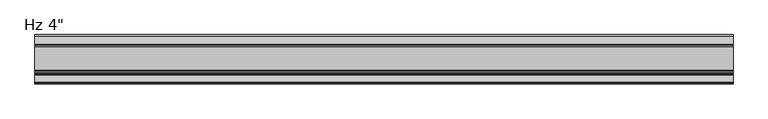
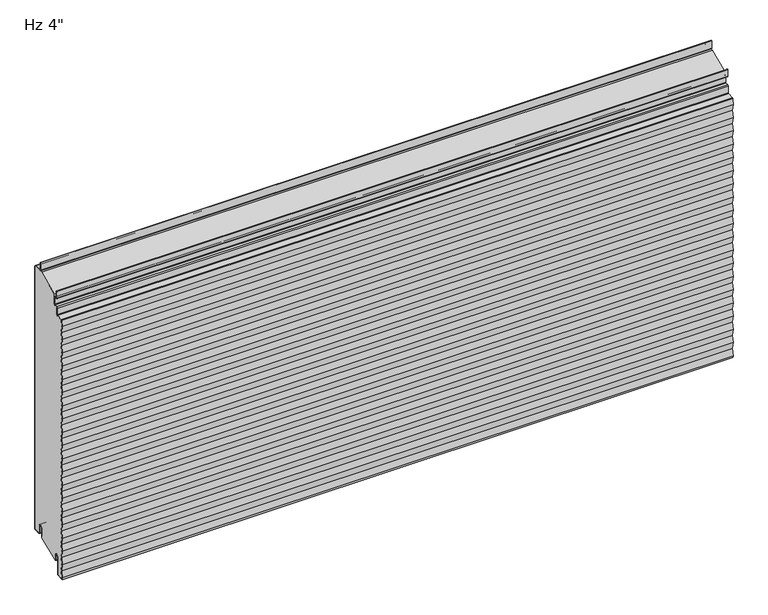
"""IFC4 building model written with IfcOpenShell, lengths in millimetres: plate geometry."""

from ifc_helpers import new_model, si_unit, point, frame, frame_2d, origin, place, context, project, spatial, polyline, circle_curve, ellipse_curve, trimmed, segment, composite_curve, outline, extrude, source, transform, mapped, element, save
from ifc_brep_helpers import plane_surface, cylinder_surface, revolved_surface, extruded_surface, advanced_brep


def plate_96c78911(model_context):
    return source(origin(), model_context, "Body", "SolidModel", [
        extrude(outline(composite_curve([segment(trimmed(circle_curve(frame_2d((-21.43125, 19.05)), 4.96875), [point((-16.4625, 19.05))], [point((-26.4, 19.05))], True, "CARTESIAN"), True, "CONTINUOUS"), segment(polyline([(-26.4, 19.05), (-26.4, -3.1323422), (-74.6157227, -23.01875), (-76.2, -23.01875), (-76.2, -13.5080174), (-76.99375, -13.5080174), (-76.7875, -11.9205174)]), True, "CONTINUOUS"), segment(trimmed(circle_curve(frame_2d((-81.75625, -11.9205174)), 4.96875), [point((-76.7875, -11.9205174))], [point((-86.725, -11.9205174))], True, "CARTESIAN"), True, "CONTINUOUS"), segment(polyline([(-86.725, -11.9205174), (-86.725, -50.1038221)]), True, "CONTINUOUS"), segment(trimmed(circle_curve(frame_2d((-88.10625, -50.1038221)), 1.38125), [point((-86.725, -50.1038221))], [point((-88.033961, -51.4831791))], False, "CARTESIAN"), True, "CONTINUOUS"), segment(polyline([(-88.033961, -51.4831791), (-101.2062471, -52.1735094), (-101.7378194, -48.8511825), (-99.2994194, -33.6111825), (-101.7378194, -18.3711825), (-99.2994194, -3.1311825), (-101.7378194, 12.1088175), (-99.2994194, 27.3488175), (-101.7378194, 42.5888175), (-99.2994194, 57.8288175), (-101.7378194, 73.0688175), (-99.2994194, 88.3088175), (-101.7378194, 103.5488175), (-99.2994194, 118.7888175), (-101.7378194, 134.0288175), (-99.2994194, 149.2688175), (-101.7378194, 164.5088175), (-99.2994194, 179.7488175), (-101.7378194, 194.9888175), (-99.2994194, 210.2288175), (-101.7378194, 225.4688175), (-99.2994194, 240.7088175), (-101.7378194, 255.9488175), (-99.2994194, 271.1888175), (-101.7378194, 286.4288175), (-99.2994194, 301.6688175), (-101.7378194, 316.9088175), (-99.2994194, 332.1488175), (-101.7378194, 347.3888175), (-99.2994194, 362.6288175), (-101.7378194, 377.8688175), (-99.2994194, 393.1088175), (-101.7378194, 408.3488175), (-99.2994194, 423.5888175), (-101.7378194, 438.8288175), (-99.2994194, 454.0688175), (-101.7378194, 469.3088175), (-99.2994194, 484.5488175), (-101.7378194, 499.7888175), (-99.2994194, 515.0288175), (-101.7054086, 530.06625), (-99.6673048, 542.8043985), (-85.5895807, 543.5421807)]), True, "CONTINUOUS"), segment(trimmed(circle_curve(frame_2d((-85.725, 546.1261347)), 2.5875), [point((-85.5895807, 543.5421807))], [point((-83.1375, 546.1261347))], True, "CARTESIAN"), True, "CONTINUOUS"), segment(polyline([(-83.1375, 546.1261347), (-83.1375, 560.2824411)]), True, "CONTINUOUS"), segment(trimmed(circle_curve(frame_2d((-81.75625, 560.2824411)), 1.38125), [point((-83.1375, 560.2824411))], [point((-81.828539, 561.6617981))], False, "CARTESIAN"), True, "CONTINUOUS"), segment(polyline([(-81.828539, 561.6617981), (-76.0645807, 561.9638744)]), True, "CONTINUOUS"), segment(trimmed(circle_curve(frame_2d((-76.2, 564.5478283)), 2.5875), [point((-76.0645807, 561.9638744))], [point((-73.6125, 564.5478283))], True, "CARTESIAN"), True, "CONTINUOUS"), segment(polyline([(-73.6125, 564.5478283), (-73.6125, 586.9892934), (-24.9057308, 607.80625), (-2.38125, 607.80625)]), True, "CONTINUOUS"), segment(trimmed(circle_curve(frame_2d((-2.38125, 606.425)), 1.38125), [point((-2.38125, 607.80625))], [point((-1.0, 606.425))], False, "CARTESIAN"), True, "CONTINUOUS"), segment(polyline([(-1.0, 606.425), (-1.0, 3.175)]), True, "CONTINUOUS"), segment(trimmed(circle_curve(frame_2d((-2.38125, 3.175)), 1.38125), [point((-1.0, 3.175))], [point((-2.38125, 1.79375))], False, "CARTESIAN"), True, "CONTINUOUS"), segment(polyline([(-2.38125, 1.79375), (-15.08125, 1.79375)]), True, "CONTINUOUS"), segment(trimmed(circle_curve(frame_2d((-15.08125, 3.175)), 1.38125), [point((-15.08125, 1.79375))], [point((-16.4625, 3.175))], False, "CARTESIAN"), True, "CONTINUOUS"), segment(polyline([(-16.4625, 3.175), (-16.4625, 19.05)]), True, "CONTINUOUS")], self_intersect=False)), frame((-730.0, 0.0, 0.0), z_axis=(1.0, 0.0, 0.0), x_axis=(0.0, 1.0, 0.0)), (0.0, 0.0, 1.0), 1460.0),
        extrude(outline(composite_curve([segment(polyline([(-25.4, 0.79375), (-26.4, 0.79375), (-26.4, 19.05)]), True, "CONTINUOUS"), segment(trimmed(circle_curve(frame_2d((-21.43125, 19.05)), 4.96875), [point((-26.4, 19.05))], [point((-16.4625, 19.05))], False, "CARTESIAN"), True, "CONTINUOUS"), segment(polyline([(-16.4625, 19.05), (-16.4625, 3.175)]), True, "CONTINUOUS"), segment(trimmed(circle_curve(frame_2d((-15.08125, 3.175)), 1.38125), [point((-16.4625, 3.175))], [point((-15.08125, 1.79375))], True, "CARTESIAN"), True, "CONTINUOUS"), segment(polyline([(-15.08125, 1.79375), (-2.38125, 1.79375)]), True, "CONTINUOUS"), segment(trimmed(circle_curve(frame_2d((-2.38125, 3.175)), 1.38125), [point((-2.38125, 1.79375))], [point((-1.0, 3.175))], True, "CARTESIAN"), True, "CONTINUOUS"), segment(polyline([(-1.0, 3.175), (-1.0, 606.425)]), True, "CONTINUOUS"), segment(trimmed(circle_curve(frame_2d((-2.38125, 606.425)), 1.38125), [point((-1.0, 606.425))], [point((-2.38125, 607.80625))], True, "CARTESIAN"), True, "CONTINUOUS"), segment(polyline([(-2.38125, 607.80625), (-19.446875, 607.80625)]), True, "CONTINUOUS"), segment(trimmed(circle_curve(frame_2d((-19.446875, 610.39375)), 2.5875), [point((-19.446875, 607.80625))], [point((-22.034375, 610.39375))], False, "CARTESIAN"), True, "CONTINUOUS"), segment(polyline([(-22.034375, 610.39375), (-22.034375, 627.85625), (-21.034375, 627.85625), (-21.034375, 610.39375)]), True, "CONTINUOUS"), segment(trimmed(circle_curve(frame_2d((-19.446875, 610.39375)), 1.5875), [point((-21.034375, 610.39375))], [point((-19.446875, 608.80625))], True, "CARTESIAN"), True, "CONTINUOUS"), segment(polyline([(-19.446875, 608.80625), (-2.38125, 608.80625)]), True, "CONTINUOUS"), segment(trimmed(circle_curve(frame_2d((-2.38125, 606.425)), 2.38125), [point((-2.38125, 608.80625))], [point((0.0, 606.425))], False, "CARTESIAN"), True, "CONTINUOUS"), segment(polyline([(0.0, 606.425), (0.0, 3.175)]), True, "CONTINUOUS"), segment(trimmed(circle_curve(frame_2d((-2.38125, 3.175)), 2.38125), [point((0.0, 3.175))], [point((-2.38125, 0.79375))], False, "CARTESIAN"), True, "CONTINUOUS"), segment(polyline([(-2.38125, 0.79375), (-15.08125, 0.79375)]), True, "CONTINUOUS"), segment(trimmed(circle_curve(frame_2d((-15.08125, 3.175)), 2.38125), [point((-15.08125, 0.79375))], [point((-17.4625, 3.175))], False, "CARTESIAN"), True, "CONTINUOUS"), segment(polyline([(-17.4625, 3.175), (-17.4625, 19.05)]), True, "CONTINUOUS"), segment(trimmed(circle_curve(frame_2d((-21.43125, 19.05)), 3.96875), [point((-17.4625, 19.05))], [point((-25.4, 19.05))], True, "CARTESIAN"), True, "CONTINUOUS"), segment(polyline([(-25.4, 19.05), (-25.4, 0.79375)]), True, "CONTINUOUS")], self_intersect=False)), frame((-730.0, 0.0, 0.0), z_axis=(1.0, 0.0, 0.0), x_axis=(0.0, 1.0, 0.0)), (0.0, 0.0, 1.0), 1460.0),
        advanced_brep(
        [(-730.0, -99.3998204, 271.1690814), (730.0, -99.3998204, 271.1690814), (730.0, -101.8382204, 255.9290814), (-730.0, -101.8382204, 255.9290814), (-730.0, -99.343375, 543.8227473), (730.0, -99.343375, 543.8227473), (730.0, -85.6419167, 544.5408103), (-730.0, -85.6419167, 544.5408103), (-730.0, -100.4125395, 515.0090814), (730.0, -100.4125395, 515.0090814), (730.0, -102.8185287, 530.0465139), (-730.0, -102.8185287, 530.0465139), (-730.0, -99.3998204, 515.0090814), (730.0, -99.3998204, 515.0090814), (730.0, -101.8382204, 499.7690814), (-730.0, -101.8382204, 499.7690814), (730.0, -99.3998204, 484.5290814), (-730.0, -99.3998204, 484.5290814), (730.0, -101.8382204, 469.2890814), (-730.0, -101.8382204, 469.2890814), (730.0, -99.3998204, 454.0490814), (-730.0, -99.3998204, 454.0490814), (730.0, -101.8382204, 438.8090814), (-730.0, -101.8382204, 438.8090814), (730.0, -99.3998204, 423.5690814), (-730.0, -99.3998204, 423.5690814), (730.0, -101.8382204, 408.3290814), (-730.0, -101.8382204, 408.3290814), (730.0, -99.3998204, 393.0890814), (-730.0, -99.3998204, 393.0890814), (730.0, -101.8382204, 377.8490814), (-730.0, -101.8382204, 377.8490814), (730.0, -99.3998204, 362.6090814), (-730.0, -99.3998204, 362.6090814), (730.0, -101.8382204, 347.3690814), (-730.0, -101.8382204, 347.3690814), (730.0, -99.3998204, 332.1290814), (-730.0, -99.3998204, 332.1290814), (730.0, -101.8382204, 316.8890814), (-730.0, -101.8382204, 316.8890814), (-730.0, -102.8509395, 438.8090814), (730.0, -102.8509395, 438.8090814), (730.0, -100.4125395, 454.0490814), (-730.0, -100.4125395, 454.0490814), (730.0, -102.8509395, 469.2890814), (-730.0, -102.8509395, 469.2890814), (730.0, -100.4125395, 484.5290814), (-730.0, -100.4125395, 484.5290814), (730.0, -102.8509395, 499.7690814), (-730.0, -102.8509395, 499.7690814), (-730.0, -99.291039, 542.8241177), (730.0, -99.291039, 542.8241177), (730.0, -99.840413, 542.3302423), (-730.0, -99.840413, 542.3302423), (730.0, -101.8058096, 530.0465139), (-730.0, -101.8058096, 530.0465139), (-730.0, -100.4125395, 362.6090814), (730.0, -100.4125395, 362.6090814), (730.0, -102.8509395, 377.8490814), (-730.0, -102.8509395, 377.8490814), (-730.0, -102.8509395, 408.3290814), (730.0, -102.8509395, 408.3290814), (730.0, -100.4125395, 423.5690814), (-730.0, -100.4125395, 423.5690814), (-730.0, -100.4125395, 301.6490814), (730.0, -100.4125395, 301.6490814), (730.0, -102.8509395, 316.8890814), (-730.0, -102.8509395, 316.8890814), (-730.0, -102.8509395, 347.3690814), (730.0, -102.8509395, 347.3690814), (-730.0, -100.4125395, 240.6890814), (730.0, -100.4125395, 240.6890814), (730.0, -102.8509395, 255.9290814), (-730.0, -102.8509395, 255.9290814), (-730.0, -102.8509395, 286.4090814), (730.0, -102.8509395, 286.4090814), (-730.0, -100.4125395, 179.7290814), (730.0, -100.4125395, 179.7290814), (730.0, -102.8509395, 194.9690814), (-730.0, -102.8509395, 194.9690814), (-730.0, -102.8509395, 225.4490814), (730.0, -102.8509395, 225.4490814), (-730.0, -100.4125395, 118.7690814), (730.0, -100.4125395, 118.7690814), (730.0, -102.8509395, 134.0090814), (-730.0, -102.8509395, 134.0090814), (-730.0, -102.8509395, 164.4890814), (730.0, -102.8509395, 164.4890814), (-730.0, -100.4125395, 57.8090814), (730.0, -100.4125395, 57.8090814), (730.0, -102.8509395, 73.0490814), (-730.0, -102.8509395, 73.0490814), (-730.0, -102.8509395, 103.5290814), (730.0, -102.8509395, 103.5290814), (-730.0, -100.4125395, -3.1509186), (730.0, -100.4125395, -3.1509186), (730.0, -102.8509395, 12.0890814), (-730.0, -102.8509395, 12.0890814), (-730.0, -102.8509395, 42.5690814), (730.0, -102.8509395, 42.5690814), (-730.0, -76.2, -23.2314549), (-730.0, -77.7875, -23.2314549), (-730.0, -77.7875, -11.9205174), (-730.0, -85.725, -11.9205174), (-730.0, -85.725, -50.1038221), (-730.0, -87.981625, -52.4818086), (-730.0, -102.1543553, -53.22457), (-730.0, -102.8509395, -48.8709186), (-730.0, -100.4125395, -33.6309186), (-730.0, -102.8509395, -18.3909186), (-730.0, -100.4125395, 27.3290814), (-730.0, -100.4125395, 88.2890814), (-730.0, -100.4125395, 149.2490814), (-730.0, -100.4125395, 210.2090814), (-730.0, -100.4125395, 271.1690814), (-730.0, -100.4125395, 332.1290814), (-730.0, -100.4125395, 393.0890814), (-730.0, -100.8278537, 542.4882328), (-730.0, -84.1375, 546.1261347), (-730.0, -84.1375, 560.2824411), (-730.0, -81.880875, 562.6604276), (-730.0, -76.1169167, 562.9625039), (-730.0, -74.6125, 564.5478283), (-730.0, -74.6125, 579.4232326), (-730.0, -76.2, 581.0107326), (-730.0, -80.3671875, 581.0107326), (-730.0, -82.7484375, 583.3919826), (-730.0, -82.7484375, 597.8836032), (-730.0, -80.9546875, 597.8836032), (-730.0, -80.9546875, 588.1544826), (-730.0, -81.7484375, 588.1544826), (-730.0, -81.7484375, 583.3919826), (-730.0, -80.3671875, 582.0107326), (-730.0, -76.2, 582.0107326), (-730.0, -73.6125, 579.4232326), (-730.0, -73.6125, 564.5478283), (-730.0, -76.0645807, 561.9638744), (-730.0, -81.828539, 561.6617981), (-730.0, -83.1375, 560.2824411), (-730.0, -83.1375, 546.1261347), (-730.0, -85.5895807, 543.5421807), (-730.0, -99.3998204, 301.6490814), (-730.0, -101.8382204, 286.4090814), (-730.0, -99.3998204, 240.6890814), (-730.0, -101.8382204, 225.4490814), (-730.0, -99.3998204, 210.2090814), (-730.0, -101.8382204, 194.9690814), (-730.0, -99.3998204, 179.7290814), (-730.0, -101.8382204, 164.4890814), (-730.0, -99.3998204, 149.2490814), (-730.0, -101.8382204, 134.0090814), (-730.0, -99.3998204, 118.7690814), (-730.0, -101.8382204, 103.5290814), (-730.0, -99.3998204, 88.2890814), (-730.0, -101.8382204, 73.0490814), (-730.0, -99.3998204, 57.8090814), (-730.0, -101.8382204, 42.5690814), (-730.0, -99.3998204, 27.3290814), (-730.0, -101.8382204, 12.0890814), (-730.0, -99.3998204, -3.1509186), (-730.0, -101.8382204, -18.3909186), (-730.0, -99.3998204, -33.6309186), (-730.0, -101.8382204, -48.8709186), (-730.0, -101.3089447, -52.1788915), (-730.0, -88.033961, -51.4831791), (-730.0, -86.725, -50.1038221), (-730.0, -86.725, -11.9205174), (-730.0, -76.7875, -11.9205174), (-730.0, -76.99375, -13.5080174), (-730.0, -76.2, -13.5080174), (730.0, -76.2, -23.2314549), (730.0, -76.2, -13.5080174), (730.0, -76.99375, -13.5080174), (730.0, -76.7875, -11.9205174), (730.0, -86.725, -11.9205174), (730.0, -86.725, -50.1038221), (730.0, -88.033961, -51.4831791), (730.0, -101.3089447, -52.1788915), (730.0, -101.8382204, -48.8709186), (730.0, -99.3998204, -33.6309186), (730.0, -101.8382204, -18.3909186), (730.0, -99.3998204, -3.1509186), (730.0, -101.8382204, 12.0890814), (730.0, -99.3998204, 27.3290814), (730.0, -101.8382204, 42.5690814), (730.0, -99.3998204, 57.8090814), (730.0, -101.8382204, 73.0490814), (730.0, -99.3998204, 88.2890814), (730.0, -101.8382204, 103.5290814), (730.0, -99.3998204, 118.7690814), (730.0, -101.8382204, 134.0090814), (730.0, -99.3998204, 149.2490814), (730.0, -101.8382204, 164.4890814), (730.0, -99.3998204, 179.7290814), (730.0, -101.8382204, 194.9690814), (730.0, -99.3998204, 210.2090814), (730.0, -101.8382204, 225.4490814), (730.0, -99.3998204, 240.6890814), (730.0, -101.8382204, 286.4090814), (730.0, -99.3998204, 301.6490814), (730.0, -85.5895807, 543.5421807), (730.0, -83.1375, 546.1261347), (730.0, -83.1375, 560.2824411), (730.0, -81.828539, 561.6617981), (730.0, -76.0645807, 561.9638744), (730.0, -73.6125, 564.5478283), (730.0, -73.6125, 579.4232326), (730.0, -76.2, 582.0107326), (730.0, -80.3671875, 582.0107326), (730.0, -81.7484375, 583.3919826), (730.0, -81.7484375, 588.1544826), (730.0, -80.9546875, 588.1544826), (730.0, -80.9546875, 597.8836032), (730.0, -82.7484375, 597.8836032), (730.0, -82.7484375, 583.3919826), (730.0, -80.3671875, 581.0107326), (730.0, -76.2, 581.0107326), (730.0, -74.6125, 579.4232326), (730.0, -74.6125, 564.5478283), (730.0, -76.1169167, 562.9625039), (730.0, -81.880875, 562.6604276), (730.0, -84.1375, 560.2824411), (730.0, -84.1375, 546.1261347), (730.0, -100.8278537, 542.4882328), (730.0, -100.4125395, 393.0890814), (730.0, -100.4125395, 332.1290814), (730.0, -100.4125395, 271.1690814), (730.0, -100.4125395, 210.2090814), (730.0, -100.4125395, 149.2490814), (730.0, -100.4125395, 88.2890814), (730.0, -100.4125395, 27.3290814), (730.0, -102.8509395, -18.3909186), (730.0, -100.4125395, -33.6309186), (730.0, -102.8509395, -48.8709186), (730.0, -102.1543553, -53.22457), (730.0, -87.981625, -52.4818086), (730.0, -85.725, -50.1038221), (730.0, -85.725, -11.9205174), (730.0, -77.7875, -11.9205174), (730.0, -77.7875, -23.2314549)],
        [
            (0, 1),
            (1, 2),
            (2, 3),
            (3, 0),
            (4, 5),
            (5, 6),
            (6, 7),
            (7, 4),
            (8, 9),
            (9, 10),
            (10, 11),
            (11, 8),
            (12, 13),
            (13, 14),
            (14, 15),
            (15, 12),
            (14, 16),
            (16, 17),
            (17, 15),
            (16, 18),
            (18, 19),
            (19, 17),
            (18, 20),
            (20, 21),
            (21, 19),
            (20, 22),
            (22, 23),
            (23, 21),
            (22, 24),
            (24, 25),
            (25, 23),
            (24, 26),
            (26, 27),
            (27, 25),
            (26, 28),
            (28, 29),
            (29, 27),
            (28, 30),
            (30, 31),
            (31, 29),
            (30, 32),
            (32, 33),
            (33, 31),
            (32, 34),
            (34, 35),
            (35, 33),
            (34, 36),
            (36, 37),
            (37, 35),
            (36, 38),
            (38, 39),
            (39, 37),
            (40, 41),
            (41, 42),
            (42, 43),
            (43, 40),
            (42, 44),
            (44, 45),
            (45, 43),
            (44, 46),
            (46, 47),
            (47, 45),
            (46, 48),
            (48, 49),
            (49, 47),
            (48, 9),
            (8, 49),
            (50, 51),
            (51, 52, circle_curve(frame((730.0, -99.2602917, 542.2374229), z_axis=(1.0, 0.0, 0.0), x_axis=(0.0, 0.0, 1.0)), 0.5875)),
            (52, 53),
            (53, 50, circle_curve(frame((-730.0, -99.2602917, 542.2374229), z_axis=(-1.0, 0.0, 0.0), x_axis=(0.0, 0.0, 1.0)), 0.5875)),
            (52, 54),
            (54, 55),
            (55, 53),
            (56, 57),
            (57, 58),
            (58, 59),
            (59, 56),
            (60, 61),
            (61, 62),
            (62, 63),
            (63, 60),
            (64, 65),
            (65, 66),
            (66, 67),
            (67, 64),
            (68, 69),
            (69, 57),
            (56, 68),
            (70, 71),
            (71, 72),
            (72, 73),
            (73, 70),
            (74, 75),
            (75, 65),
            (64, 74),
            (76, 77),
            (77, 78),
            (78, 79),
            (79, 76),
            (80, 81),
            (81, 71),
            (70, 80),
            (82, 83),
            (83, 84),
            (84, 85),
            (85, 82),
            (86, 87),
            (87, 77),
            (76, 86),
            (88, 89),
            (89, 90),
            (90, 91),
            (91, 88),
            (92, 93),
            (93, 83),
            (82, 92),
            (94, 95),
            (95, 96),
            (96, 97),
            (97, 94),
            (98, 99),
            (99, 89),
            (88, 98),
            (100, 101, circle_curve(frame((-730.0, -76.99375, -23.2314549), z_axis=(-1.0, 0.0, 0.0), x_axis=(0.0, 0.0, 1.0)), 0.79375)),
            (101, 102),
            (102, 103, circle_curve(frame((-730.0, -81.75625, -11.9205174), z_axis=(1.0, 0.0, 0.0), x_axis=(0.0, 0.0, 1.0)), 3.96875)),
            (103, 104),
            (104, 105, circle_curve(frame((-730.0, -88.10625, -50.1038221), z_axis=(-1.0, 0.0, 0.0), x_axis=(0.0, 0.0, 1.0)), 2.38125)),
            (105, 106),
            (106, 107),
            (107, 108),
            (108, 109),
            (109, 94),
            (97, 110),
            (110, 98),
            (91, 111),
            (111, 92),
            (85, 112),
            (112, 86),
            (79, 113),
            (113, 80),
            (73, 114),
            (114, 74),
            (67, 115),
            (115, 68),
            (59, 116),
            (116, 60),
            (63, 40),
            (11, 117),
            (117, 4, circle_curve(frame((-730.0, -99.2602917, 542.2374229), z_axis=(-1.0, 0.0, 0.0), x_axis=(0.0, 0.0, 1.0)), 1.5875)),
            (7, 118, circle_curve(frame((-730.0, -85.725, 546.1261347), z_axis=(1.0, 0.0, 0.0), x_axis=(0.0, 0.0, 1.0)), 1.5875)),
            (118, 119),
            (119, 120, circle_curve(frame((-730.0, -81.75625, 560.2824411), z_axis=(-1.0, 0.0, 0.0), x_axis=(0.0, 0.0, 1.0)), 2.38125)),
            (120, 121),
            (121, 122, circle_curve(frame((-730.0, -76.2, 564.5478283), z_axis=(1.0, 0.0, 0.0), x_axis=(0.0, 0.0, 1.0)), 1.5875)),
            (122, 123),
            (123, 124, circle_curve(frame((-730.0, -76.2, 579.4232326), z_axis=(1.0, 0.0, 0.0), x_axis=(0.0, 0.0, 1.0)), 1.5875)),
            (124, 125),
            (125, 126, circle_curve(frame((-730.0, -80.3671875, 583.3919826), z_axis=(-1.0, 0.0, 0.0), x_axis=(0.0, 0.0, 1.0)), 2.38125)),
            (126, 127),
            (127, 128, ellipse_curve(frame((-730.0, -81.8515625, 597.8836032), z_axis=(-1.0, 0.0, 0.0), x_axis=(0.0, 1.0, 0.0)), 0.896875, 0.7852275)),
            (128, 129),
            (129, 130),
            (130, 131),
            (131, 132, circle_curve(frame((-730.0, -80.3671875, 583.3919826), z_axis=(1.0, 0.0, 0.0), x_axis=(0.0, 0.0, 1.0)), 1.38125)),
            (132, 133),
            (133, 134, circle_curve(frame((-730.0, -76.2, 579.4232326), z_axis=(-1.0, 0.0, 0.0), x_axis=(0.0, 0.0, 1.0)), 2.5875)),
            (134, 135),
            (135, 136, circle_curve(frame((-730.0, -76.2, 564.5478283), z_axis=(-1.0, 0.0, 0.0), x_axis=(0.0, 0.0, 1.0)), 2.5875)),
            (136, 137),
            (137, 138, circle_curve(frame((-730.0, -81.75625, 560.2824411), z_axis=(1.0, 0.0, 0.0), x_axis=(0.0, 0.0, 1.0)), 1.38125)),
            (138, 139),
            (139, 140, circle_curve(frame((-730.0, -85.725, 546.1261347), z_axis=(-1.0, 0.0, 0.0), x_axis=(0.0, 0.0, 1.0)), 2.5875)),
            (140, 50),
            (55, 12),
            (39, 141),
            (141, 142),
            (142, 0),
            (3, 143),
            (143, 144),
            (144, 145),
            (145, 146),
            (146, 147),
            (147, 148),
            (148, 149),
            (149, 150),
            (150, 151),
            (151, 152),
            (152, 153),
            (153, 154),
            (154, 155),
            (155, 156),
            (156, 157),
            (157, 158),
            (158, 159),
            (159, 160),
            (160, 161),
            (161, 162),
            (162, 163),
            (163, 164),
            (164, 165, circle_curve(frame((-730.0, -88.10625, -50.1038221), z_axis=(1.0, 0.0, 0.0), x_axis=(0.0, 0.0, 1.0)), 1.38125)),
            (165, 166),
            (166, 167, circle_curve(frame((-730.0, -81.75625, -11.9205174), z_axis=(-1.0, 0.0, 0.0), x_axis=(0.0, 0.0, 1.0)), 4.96875)),
            (167, 168),
            (168, 169),
            (169, 100),
            (170, 171),
            (171, 172),
            (172, 173),
            (173, 174, circle_curve(frame((730.0, -81.75625, -11.9205174), z_axis=(1.0, 0.0, 0.0), x_axis=(0.0, 0.0, 1.0)), 4.96875)),
            (174, 175),
            (175, 176, circle_curve(frame((730.0, -88.10625, -50.1038221), z_axis=(-1.0, 0.0, 0.0), x_axis=(0.0, 0.0, 1.0)), 1.38125)),
            (176, 177),
            (177, 178),
            (178, 179),
            (179, 180),
            (180, 181),
            (181, 182),
            (182, 183),
            (183, 184),
            (184, 185),
            (185, 186),
            (186, 187),
            (187, 188),
            (188, 189),
            (189, 190),
            (190, 191),
            (191, 192),
            (192, 193),
            (193, 194),
            (194, 195),
            (195, 196),
            (196, 197),
            (197, 2),
            (1, 198),
            (198, 199),
            (199, 38),
            (13, 54),
            (51, 200),
            (200, 201, circle_curve(frame((730.0, -85.725, 546.1261347), z_axis=(1.0, 0.0, 0.0), x_axis=(0.0, 0.0, 1.0)), 2.5875)),
            (201, 202),
            (202, 203, circle_curve(frame((730.0, -81.75625, 560.2824411), z_axis=(-1.0, 0.0, 0.0), x_axis=(0.0, 0.0, 1.0)), 1.38125)),
            (203, 204),
            (204, 205, circle_curve(frame((730.0, -76.2, 564.5478283), z_axis=(1.0, 0.0, 0.0), x_axis=(0.0, 0.0, 1.0)), 2.5875)),
            (205, 206),
            (206, 207, circle_curve(frame((730.0, -76.2, 579.4232326), z_axis=(1.0, 0.0, 0.0), x_axis=(0.0, 0.0, 1.0)), 2.5875)),
            (207, 208),
            (208, 209, circle_curve(frame((730.0, -80.3671875, 583.3919826), z_axis=(-1.0, 0.0, 0.0), x_axis=(0.0, 0.0, 1.0)), 1.38125)),
            (209, 210),
            (210, 211),
            (211, 212),
            (212, 213, ellipse_curve(frame((730.0, -81.8515625, 597.8836032), z_axis=(1.0, 0.0, 0.0), x_axis=(0.0, 1.0, 0.0)), 0.896875, 0.7852275)),
            (213, 214),
            (214, 215, circle_curve(frame((730.0, -80.3671875, 583.3919826), z_axis=(1.0, 0.0, 0.0), x_axis=(0.0, 0.0, 1.0)), 2.38125)),
            (215, 216),
            (216, 217, circle_curve(frame((730.0, -76.2, 579.4232326), z_axis=(-1.0, 0.0, 0.0), x_axis=(0.0, 0.0, 1.0)), 1.5875)),
            (217, 218),
            (218, 219, circle_curve(frame((730.0, -76.2, 564.5478283), z_axis=(-1.0, 0.0, 0.0), x_axis=(0.0, 0.0, 1.0)), 1.5875)),
            (219, 220),
            (220, 221, circle_curve(frame((730.0, -81.75625, 560.2824411), z_axis=(1.0, 0.0, 0.0), x_axis=(0.0, 0.0, 1.0)), 2.38125)),
            (221, 222),
            (222, 6, circle_curve(frame((730.0, -85.725, 546.1261347), z_axis=(-1.0, 0.0, 0.0), x_axis=(0.0, 0.0, 1.0)), 1.5875)),
            (5, 223, circle_curve(frame((730.0, -99.2602917, 542.2374229), z_axis=(1.0, 0.0, 0.0), x_axis=(0.0, 0.0, 1.0)), 1.5875)),
            (223, 10),
            (41, 62),
            (61, 224),
            (224, 58),
            (69, 225),
            (225, 66),
            (75, 226),
            (226, 72),
            (81, 227),
            (227, 78),
            (87, 228),
            (228, 84),
            (93, 229),
            (229, 90),
            (99, 230),
            (230, 96),
            (95, 231),
            (231, 232),
            (232, 233),
            (233, 234),
            (234, 235),
            (235, 236, circle_curve(frame((730.0, -88.10625, -50.1038221), z_axis=(1.0, 0.0, 0.0), x_axis=(0.0, 0.0, 1.0)), 2.38125)),
            (236, 237),
            (237, 238, circle_curve(frame((730.0, -81.75625, -11.9205174), z_axis=(-1.0, 0.0, 0.0), x_axis=(0.0, 0.0, 1.0)), 3.96875)),
            (238, 239),
            (239, 170, circle_curve(frame((730.0, -76.99375, -23.2314549), z_axis=(1.0, 0.0, 0.0), x_axis=(0.0, 0.0, 1.0)), 0.79375)),
            (169, 171),
            (170, 100),
            (163, 177),
            (176, 164),
            (175, 165),
            (174, 166),
            (173, 167),
            (168, 172),
            (129, 211),
            (210, 130),
            (128, 212),
            (127, 213),
            (139, 201),
            (200, 140),
            (137, 203),
            (202, 138),
            (135, 205),
            (204, 136),
            (131, 209),
            (208, 132),
            (133, 207),
            (206, 134),
            (126, 214),
            (124, 216),
            (215, 125),
            (122, 218),
            (217, 123),
            (120, 220),
            (219, 121),
            (118, 222),
            (221, 119),
            (105, 235),
            (234, 106),
            (103, 237),
            (236, 104),
            (101, 239),
            (238, 102),
            (199, 141),
            (198, 142),
            (197, 143),
            (196, 144),
            (195, 145),
            (194, 146),
            (193, 147),
            (192, 148),
            (191, 149),
            (190, 150),
            (189, 151),
            (223, 117),
            (116, 224),
            (115, 225),
            (114, 226),
            (113, 227),
            (112, 228),
            (111, 229),
            (110, 230),
            (108, 232),
            (231, 109),
            (233, 107),
            (161, 179),
            (178, 162),
            (159, 181),
            (180, 160),
            (157, 183),
            (182, 158),
            (155, 185),
            (184, 156),
            (153, 187),
            (186, 154),
            (188, 152),
        ],
        [
            plane_surface(frame((-730.0, -101.8382204, 255.9290814), z_axis=(0.0, 0.987440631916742, -0.15799050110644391), x_axis=(1.0, 0.0, 0.0))),
            plane_surface(frame((-730.0, -85.6419167, 544.5408103), z_axis=(0.0, -0.052335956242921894, 0.998629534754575), x_axis=(1.0, 0.0, 0.0))),
            plane_surface(frame((-730.0, -102.8185287, 530.0465139), z_axis=(0.0, -0.9874406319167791, -0.15799050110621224), x_axis=(1.0, 0.0, 0.0))),
            plane_surface(frame((-730.0, -101.8382204, 499.7690814), z_axis=(0.0, 0.9874406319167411, -0.15799050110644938), x_axis=(1.0, 0.0, 0.0))),
            plane_surface(frame((-730.0, -99.3998204, 484.5290814), z_axis=(0.0, 0.987440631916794, 0.1579905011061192), x_axis=(1.0, 0.0, 0.0))),
            plane_surface(frame((-730.0, -101.8382204, 469.2890814), z_axis=(0.0, 0.987440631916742, -0.15799050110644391), x_axis=(1.0, 0.0, 0.0))),
            plane_surface(frame((-730.0, -99.3998204, 454.0490814), z_axis=(0.0, 0.987440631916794, 0.1579905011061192), x_axis=(1.0, 0.0, 0.0))),
            plane_surface(frame((-730.0, -101.8382204, 438.8090814), z_axis=(0.0, 0.987440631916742, -0.15799050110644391), x_axis=(1.0, 0.0, 0.0))),
            plane_surface(frame((-730.0, -99.3998204, 423.5690814), z_axis=(0.0, 0.987440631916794, 0.1579905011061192), x_axis=(1.0, 0.0, 0.0))),
            plane_surface(frame((-730.0, -101.8382204, 408.3290814), z_axis=(0.0, 0.987440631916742, -0.15799050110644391), x_axis=(1.0, 0.0, 0.0))),
            plane_surface(frame((-730.0, -99.3998204, 393.0890814), z_axis=(0.0, 0.9874406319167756, 0.15799050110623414), x_axis=(1.0, 0.0, 0.0))),
            plane_surface(frame((-730.0, -101.8382204, 377.8490814), z_axis=(0.0, 0.9874406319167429, -0.15799050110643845), x_axis=(1.0, 0.0, 0.0))),
            plane_surface(frame((-730.0, -99.3998204, 362.6090814), z_axis=(0.0, 0.9874406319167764, 0.15799050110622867), x_axis=(1.0, 0.0, 0.0))),
            plane_surface(frame((-730.0, -101.8382204, 347.3690814), z_axis=(0.0, 0.9874406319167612, -0.1579905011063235), x_axis=(1.0, 0.0, 0.0))),
            plane_surface(frame((-730.0, -99.3998204, 332.1290814), z_axis=(0.0, 0.9874406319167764, 0.15799050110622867), x_axis=(1.0, 0.0, 0.0))),
            plane_surface(frame((-730.0, -101.8382204, 316.8890814), z_axis=(0.0, 0.987440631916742, -0.15799050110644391), x_axis=(1.0, 0.0, 0.0))),
            plane_surface(frame((-730.0, -100.4125395, 454.0490814), z_axis=(0.0, -0.9874406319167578, 0.15799050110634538), x_axis=(1.0, 0.0, 0.0))),
            plane_surface(frame((-730.0, -102.8509395, 469.2890814), z_axis=(0.0, -0.9874406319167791, -0.15799050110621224), x_axis=(1.0, 0.0, 0.0))),
            plane_surface(frame((-730.0, -100.4125395, 484.5290814), z_axis=(0.0, -0.9874406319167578, 0.15799050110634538), x_axis=(1.0, 0.0, 0.0))),
            plane_surface(frame((-730.0, -102.8509395, 499.7690814), z_axis=(0.0, -0.9874406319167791, -0.15799050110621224), x_axis=(1.0, 0.0, 0.0))),
            plane_surface(frame((-730.0, -100.4125395, 515.0090814), z_axis=(0.0, -0.9874406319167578, 0.15799050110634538), x_axis=(1.0, 0.0, 0.0))),
            revolved_surface(polyline([(730.0, -99.2602917, 542.8249228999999), (-730.0, -99.2602917, 542.8249228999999)]), (-730.0, -99.2602917, 542.2374229), (1.0, 0.0, 0.0)),
            plane_surface(frame((-730.0, -101.8058096, 530.0465139), z_axis=(0.0, 0.9874406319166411, -0.15799050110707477), x_axis=(1.0, 0.0, 0.0))),
            plane_surface(frame((-730.0, -102.8509395, 377.8490814), z_axis=(0.0, -0.9874406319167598, -0.15799050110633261), x_axis=(1.0, 0.0, 0.0))),
            plane_surface(frame((-730.0, -100.4125395, 423.5690814), z_axis=(0.0, -0.9874406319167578, 0.15799050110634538), x_axis=(1.0, 0.0, 0.0))),
            plane_surface(frame((-730.0, -102.8509395, 316.8890814), z_axis=(0.0, -0.9874406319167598, -0.15799050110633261), x_axis=(1.0, 0.0, 0.0))),
            plane_surface(frame((-730.0, -100.4125395, 362.6090814), z_axis=(0.0, -0.9874406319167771, 0.157990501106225), x_axis=(1.0, 0.0, 0.0))),
            plane_surface(frame((-730.0, -102.8509395, 255.9290814), z_axis=(0.0, -0.9874406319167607, -0.15799050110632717), x_axis=(1.0, 0.0, 0.0))),
            plane_surface(frame((-730.0, -100.4125395, 301.6490814), z_axis=(0.0, -0.9874406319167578, 0.15799050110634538), x_axis=(1.0, 0.0, 0.0))),
            plane_surface(frame((-730.0, -102.8509395, 194.9690814), z_axis=(0.0, -0.9874406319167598, -0.15799050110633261), x_axis=(1.0, 0.0, 0.0))),
            plane_surface(frame((-730.0, -100.4125395, 240.6890814), z_axis=(0.0, -0.9874406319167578, 0.15799050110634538), x_axis=(1.0, 0.0, 0.0))),
            plane_surface(frame((-730.0, -102.8509395, 134.0090814), z_axis=(0.0, -0.9874406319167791, -0.15799050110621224), x_axis=(1.0, 0.0, 0.0))),
            plane_surface(frame((-730.0, -100.4125395, 179.7290814), z_axis=(0.0, -0.9874406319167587, 0.15799050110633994), x_axis=(1.0, 0.0, 0.0))),
            plane_surface(frame((-730.0, -102.8509395, 73.0490814), z_axis=(0.0, -0.9874406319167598, -0.15799050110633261), x_axis=(1.0, 0.0, 0.0))),
            plane_surface(frame((-730.0, -100.4125395, 118.7690814), z_axis=(0.0, -0.9874406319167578, 0.15799050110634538), x_axis=(1.0, 0.0, 0.0))),
            plane_surface(frame((-730.0, -102.8509395, 12.0890814), z_axis=(0.0, -0.9874406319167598, -0.15799050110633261), x_axis=(1.0, 0.0, 0.0))),
            plane_surface(frame((-730.0, -100.4125395, 57.8090814), z_axis=(0.0, -0.9874406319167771, 0.157990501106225), x_axis=(1.0, 0.0, 0.0))),
            plane_surface(frame((-730.0, -101.6, 304.8), z_axis=(-1.0, 0.0, 0.0), x_axis=(0.0, -1.0, 0.0))),
            plane_surface(frame((730.0, -101.6, 304.8), z_axis=(1.0, 0.0, 0.0), x_axis=(0.0, -1.0, 0.0))),
            plane_surface(frame((-730.0, -76.2, -23.2314549), z_axis=(0.0, 1.0, 0.0), x_axis=(1.0, 0.0, 0.0))),
            plane_surface(frame((-730.0, -88.033961, -51.4831791), z_axis=(0.0, -0.052335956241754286, 0.9986295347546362), x_axis=(1.0, 0.0, 0.0))),
            revolved_surface(polyline([(730.0, -88.10625, -48.7225721), (-730.0, -88.10625, -48.7225721)]), (-730.0, -88.10625, -50.1038221), (1.0, 0.0, 0.0)),
            plane_surface(frame((-730.0, -86.725, -11.9205174), z_axis=(0.0, -1.0, 0.0), x_axis=(1.0, 0.0, 0.0))),
            cylinder_surface(frame((-730.0, -81.75625, -11.9205174), z_axis=(-1.0, 0.0, 0.0), x_axis=(0.0, 0.0, 1.0)), 4.96875),
            plane_surface(frame((-730.0, -76.2, -13.5080174), z_axis=(0.0, 0.0, 1.0), x_axis=(1.0, 0.0, 0.0))),
            plane_surface(frame((-730.0, -76.99375, -13.5080174), z_axis=(0.0, 0.9916655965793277, -0.12883844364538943), x_axis=(1.0, 0.0, 0.0))),
            plane_surface(frame((-730.0, -81.7484375, 588.1544826), z_axis=(0.0, 0.0, -1.0), x_axis=(1.0, 0.0, 0.0))),
            plane_surface(frame((-730.0, -80.9546875, 588.1544826), z_axis=(0.0, 1.0, 0.0), x_axis=(1.0, 0.0, 0.0))),
            extruded_surface(trimmed(ellipse_curve(frame((-730.0, -81.8515625, 597.8836032), z_axis=(1.0, 0.0, 0.0), x_axis=(0.0, 1.0, 0.0)), 0.896875, 0.7852275), [point((-730.0, -80.9546875, 597.8836032))], [point((-730.0, -82.7484375, 597.8836032))], True, "CARTESIAN"), (1460.0, 0.0, 0.0), 1460.0),
            cylinder_surface(frame((-730.0, -85.725, 546.1261347), z_axis=(-1.0, 0.0, 0.0), x_axis=(0.0, 0.0, 1.0)), 2.5875),
            revolved_surface(polyline([(730.0, -81.75625, 561.6636911), (-730.0, -81.75625, 561.6636911)]), (-730.0, -81.75625, 560.2824411), (1.0, 0.0, 0.0)),
            cylinder_surface(frame((-730.0, -76.2, 564.5478283), z_axis=(-1.0, 0.0, 0.0), x_axis=(0.0, 0.0, 1.0)), 2.5875),
            plane_surface(frame((-730.0, -81.828539, 561.6617981), z_axis=(0.0, 0.0523359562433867, -0.9986295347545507), x_axis=(1.0, 0.0, 0.0))),
            plane_surface(frame((-730.0, -83.1375, 546.1261347), z_axis=(0.0, 1.0, 0.0), x_axis=(1.0, 0.0, 0.0))),
            revolved_surface(polyline([(730.0, -80.3671875, 584.7732326), (-730.0, -80.3671875, 584.7732326)]), (-730.0, -80.3671875, 583.3919826), (1.0, 0.0, 0.0)),
            cylinder_surface(frame((-730.0, -76.2, 579.4232326), z_axis=(-1.0, 0.0, 0.0), x_axis=(0.0, 0.0, 1.0)), 2.5875),
            plane_surface(frame((-730.0, -76.2, 582.0107326), z_axis=(0.0, 0.0, 1.0), x_axis=(1.0, 0.0, 0.0))),
            plane_surface(frame((-730.0, -81.7484375, 583.3919826), z_axis=(0.0, 1.0, 0.0), x_axis=(1.0, 0.0, 0.0))),
            plane_surface(frame((-730.0, -82.7484375, 597.8836032), z_axis=(0.0, -1.0, 0.0), x_axis=(1.0, 0.0, 0.0))),
            plane_surface(frame((-730.0, -80.3671875, 581.0107326), z_axis=(0.0, 0.0, -1.0), x_axis=(1.0, 0.0, 0.0))),
            cylinder_surface(frame((-730.0, -80.3671875, 583.3919826), z_axis=(-1.0, 0.0, 0.0), x_axis=(0.0, 0.0, 1.0)), 2.38125),
            plane_surface(frame((-730.0, -73.6125, 564.5478283), z_axis=(0.0, 1.0, 0.0), x_axis=(1.0, 0.0, 0.0))),
            plane_surface(frame((-730.0, -74.6125, 579.4232326), z_axis=(0.0, -1.0, 0.0), x_axis=(1.0, 0.0, 0.0))),
            plane_surface(frame((-730.0, -76.1169167, 562.9625039), z_axis=(0.0, -0.052335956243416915, 0.9986295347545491), x_axis=(1.0, 0.0, 0.0))),
            revolved_surface(polyline([(730.0, -76.2, 566.1353283), (-730.0, -76.2, 566.1353283)]), (-730.0, -76.2, 564.5478283), (1.0, 0.0, 0.0)),
            revolved_surface(polyline([(730.0, -76.2, 581.0107326), (-730.0, -76.2, 581.0107326)]), (-730.0, -76.2, 579.4232326), (1.0, 0.0, 0.0)),
            plane_surface(frame((-730.0, -84.1375, 560.2824411), z_axis=(0.0, -1.0, 0.0), x_axis=(1.0, 0.0, 0.0))),
            revolved_surface(polyline([(730.0, -85.725, 547.7136347), (-730.0, -85.725, 547.7136347)]), (-730.0, -85.725, 546.1261347), (1.0, 0.0, 0.0)),
            cylinder_surface(frame((-730.0, -81.75625, 560.2824411), z_axis=(-1.0, 0.0, 0.0), x_axis=(0.0, 0.0, 1.0)), 2.38125),
            plane_surface(frame((-730.0, -102.1543553, -53.22457), z_axis=(0.0, 0.052335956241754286, -0.9986295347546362), x_axis=(1.0, 0.0, 0.0))),
            plane_surface(frame((-730.0, -85.725, -50.1038221), z_axis=(0.0, 1.0, 0.0), x_axis=(1.0, 0.0, 0.0))),
            plane_surface(frame((-730.0, -77.7875, -11.9205174), z_axis=(0.0, -1.0, 0.0), x_axis=(1.0, 0.0, 0.0))),
            revolved_surface(polyline([(730.0, -81.75625, -7.9517674), (-730.0, -81.75625, -7.9517674)]), (-730.0, -81.75625, -11.9205174), (1.0, 0.0, 0.0)),
            cylinder_surface(frame((-730.0, -88.10625, -50.1038221), z_axis=(-1.0, 0.0, 0.0), x_axis=(0.0, 0.0, 1.0)), 2.38125),
            cylinder_surface(frame((-730.0, -76.99375, -23.2314549), z_axis=(-1.0, 0.0, 0.0), x_axis=(0.0, 0.0, 1.0)), 0.79375),
            plane_surface(frame((-730.0, -99.3998204, 301.6490814), z_axis=(0.0, 0.9874406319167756, 0.15799050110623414), x_axis=(1.0, 0.0, 0.0))),
            plane_surface(frame((-730.0, -101.8382204, 286.4090814), z_axis=(0.0, 0.987440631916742, -0.15799050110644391), x_axis=(1.0, 0.0, 0.0))),
            plane_surface(frame((-730.0, -99.3998204, 271.1690814), z_axis=(0.0, 0.987440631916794, 0.1579905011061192), x_axis=(1.0, 0.0, 0.0))),
            plane_surface(frame((-730.0, -99.3998204, 240.6890814), z_axis=(0.0, 0.9874406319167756, 0.15799050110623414), x_axis=(1.0, 0.0, 0.0))),
            plane_surface(frame((-730.0, -101.8382204, 225.4490814), z_axis=(0.0, 0.9874406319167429, -0.15799050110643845), x_axis=(1.0, 0.0, 0.0))),
            plane_surface(frame((-730.0, -99.3998204, 210.2090814), z_axis=(0.0, 0.9874406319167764, 0.15799050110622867), x_axis=(1.0, 0.0, 0.0))),
            plane_surface(frame((-730.0, -101.8382204, 194.9690814), z_axis=(0.0, 0.9874406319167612, -0.1579905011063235), x_axis=(1.0, 0.0, 0.0))),
            plane_surface(frame((-730.0, -99.3998204, 179.7290814), z_axis=(0.0, 0.9874406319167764, 0.15799050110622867), x_axis=(1.0, 0.0, 0.0))),
            plane_surface(frame((-730.0, -101.8382204, 164.4890814), z_axis=(0.0, 0.987440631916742, -0.15799050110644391), x_axis=(1.0, 0.0, 0.0))),
            plane_surface(frame((-730.0, -99.3998204, 149.2490814), z_axis=(0.0, 0.9874406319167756, 0.15799050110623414), x_axis=(1.0, 0.0, 0.0))),
            plane_surface(frame((-730.0, -101.8382204, 134.0090814), z_axis=(0.0, 0.987440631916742, -0.15799050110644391), x_axis=(1.0, 0.0, 0.0))),
            plane_surface(frame((-730.0, -99.3998204, 118.7690814), z_axis=(0.0, 0.987440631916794, 0.1579905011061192), x_axis=(1.0, 0.0, 0.0))),
            plane_surface(frame((-730.0, -99.291039, 542.8241177), z_axis=(0.0, 0.05233595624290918, -0.9986295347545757), x_axis=(1.0, 0.0, 0.0))),
            plane_surface(frame((-730.0, -99.3998204, 515.0090814), z_axis=(0.0, 0.9874406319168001, 0.15799050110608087), x_axis=(1.0, 0.0, 0.0))),
            plane_surface(frame((-730.0, -102.8509395, 438.8090814), z_axis=(0.0, -0.9874406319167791, -0.15799050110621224), x_axis=(1.0, 0.0, 0.0))),
            plane_surface(frame((-730.0, -100.8278537, 542.4882328), z_axis=(0.0, -0.9874406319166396, 0.15799050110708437), x_axis=(1.0, 0.0, 0.0))),
            cylinder_surface(frame((-730.0, -99.2602917, 542.2374229), z_axis=(-1.0, 0.0, 0.0), x_axis=(0.0, 0.0, 1.0)), 1.5875),
            plane_surface(frame((-730.0, -102.8509395, 408.3290814), z_axis=(0.0, -0.9874406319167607, -0.15799050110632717), x_axis=(1.0, 0.0, 0.0))),
            plane_surface(frame((-730.0, -100.4125395, 393.0890814), z_axis=(0.0, -0.9874406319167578, 0.15799050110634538), x_axis=(1.0, 0.0, 0.0))),
            plane_surface(frame((-730.0, -102.8509395, 347.3690814), z_axis=(0.0, -0.9874406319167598, -0.15799050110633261), x_axis=(1.0, 0.0, 0.0))),
            plane_surface(frame((-730.0, -100.4125395, 332.1290814), z_axis=(0.0, -0.9874406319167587, 0.15799050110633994), x_axis=(1.0, 0.0, 0.0))),
            plane_surface(frame((-730.0, -102.8509395, 286.4090814), z_axis=(0.0, -0.9874406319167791, -0.15799050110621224), x_axis=(1.0, 0.0, 0.0))),
            plane_surface(frame((-730.0, -100.4125395, 271.1690814), z_axis=(0.0, -0.9874406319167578, 0.15799050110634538), x_axis=(1.0, 0.0, 0.0))),
            plane_surface(frame((-730.0, -102.8509395, 225.4490814), z_axis=(0.0, -0.9874406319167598, -0.15799050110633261), x_axis=(1.0, 0.0, 0.0))),
            plane_surface(frame((-730.0, -100.4125395, 210.2090814), z_axis=(0.0, -0.9874406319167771, 0.157990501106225), x_axis=(1.0, 0.0, 0.0))),
            plane_surface(frame((-730.0, -102.8509395, 164.4890814), z_axis=(0.0, -0.9874406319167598, -0.15799050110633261), x_axis=(1.0, 0.0, 0.0))),
            plane_surface(frame((-730.0, -100.4125395, 149.2490814), z_axis=(0.0, -0.9874406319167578, 0.15799050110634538), x_axis=(1.0, 0.0, 0.0))),
            plane_surface(frame((-730.0, -102.8509395, 103.5290814), z_axis=(0.0, -0.9874406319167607, -0.15799050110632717), x_axis=(1.0, 0.0, 0.0))),
            plane_surface(frame((-730.0, -100.4125395, 88.2890814), z_axis=(0.0, -0.9874406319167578, 0.15799050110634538), x_axis=(1.0, 0.0, 0.0))),
            plane_surface(frame((-730.0, -102.8509395, 42.5690814), z_axis=(0.0, -0.9874406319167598, -0.15799050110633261), x_axis=(1.0, 0.0, 0.0))),
            plane_surface(frame((-730.0, -100.4125395, 27.3290814), z_axis=(0.0, -0.9874406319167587, 0.15799050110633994), x_axis=(1.0, 0.0, 0.0))),
            plane_surface(frame((-730.0, -102.8509395, -18.3909186), z_axis=(0.0, -0.9874406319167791, -0.15799050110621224), x_axis=(1.0, 0.0, 0.0))),
            plane_surface(frame((-730.0, -102.8509395, -48.8709186), z_axis=(0.0, -0.9874406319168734, -0.15799050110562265), x_axis=(1.0, 0.0, 0.0))),
            plane_surface(frame((-730.0, -100.4125395, -33.6309186), z_axis=(0.0, -0.9874406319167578, 0.15799050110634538), x_axis=(1.0, 0.0, 0.0))),
            plane_surface(frame((-730.0, -100.4125395, -3.1509186), z_axis=(0.0, -0.9874406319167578, 0.15799050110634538), x_axis=(1.0, 0.0, 0.0))),
            plane_surface(frame((-730.0, -101.8382204, -48.8709186), z_axis=(0.0, 0.9874406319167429, -0.15799050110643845), x_axis=(1.0, 0.0, 0.0))),
            plane_surface(frame((-730.0, -101.8382204, -18.3909186), z_axis=(0.0, 0.987440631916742, -0.15799050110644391), x_axis=(1.0, 0.0, 0.0))),
            plane_surface(frame((-730.0, -99.3998204, -33.6309186), z_axis=(0.0, 0.987440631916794, 0.1579905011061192), x_axis=(1.0, 0.0, 0.0))),
            plane_surface(frame((-730.0, -101.3089447, -52.1788915), z_axis=(0.0, 0.987440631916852, 0.1579905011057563), x_axis=(1.0, 0.0, 0.0))),
            plane_surface(frame((-730.0, -101.8382204, 12.0890814), z_axis=(0.0, 0.987440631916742, -0.15799050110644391), x_axis=(1.0, 0.0, 0.0))),
            plane_surface(frame((-730.0, -101.8382204, 42.5690814), z_axis=(0.0, 0.9874406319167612, -0.1579905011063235), x_axis=(1.0, 0.0, 0.0))),
            plane_surface(frame((-730.0, -99.3998204, 27.3290814), z_axis=(0.0, 0.9874406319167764, 0.15799050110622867), x_axis=(1.0, 0.0, 0.0))),
            plane_surface(frame((-730.0, -99.3998204, -3.1509186), z_axis=(0.0, 0.9874406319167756, 0.15799050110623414), x_axis=(1.0, 0.0, 0.0))),
            plane_surface(frame((-730.0, -101.8382204, 73.0490814), z_axis=(0.0, 0.9874406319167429, -0.15799050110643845), x_axis=(1.0, 0.0, 0.0))),
            plane_surface(frame((-730.0, -101.8382204, 103.5290814), z_axis=(0.0, 0.987440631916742, -0.15799050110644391), x_axis=(1.0, 0.0, 0.0))),
            plane_surface(frame((-730.0, -99.3998204, 88.2890814), z_axis=(0.0, 0.9874406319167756, 0.15799050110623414), x_axis=(1.0, 0.0, 0.0))),
            plane_surface(frame((-730.0, -99.3998204, 57.8090814), z_axis=(0.0, 0.9874406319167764, 0.15799050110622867), x_axis=(1.0, 0.0, 0.0))),
        ],
        [
            (0, [[1, 2, 3, 4]]),
            (1, [[5, 6, 7, 8]]),
            (2, [[9, 10, 11, 12]]),
            (3, [[13, 14, 15, 16]]),
            (4, [[-15, 17, 18, 19]]),
            (5, [[-18, 20, 21, 22]]),
            (6, [[-21, 23, 24, 25]]),
            (7, [[-24, 26, 27, 28]]),
            (8, [[-27, 29, 30, 31]]),
            (9, [[-30, 32, 33, 34]]),
            (10, [[-33, 35, 36, 37]]),
            (11, [[-36, 38, 39, 40]]),
            (12, [[-39, 41, 42, 43]]),
            (13, [[-42, 44, 45, 46]]),
            (14, [[-45, 47, 48, 49]]),
            (15, [[-48, 50, 51, 52]]),
            (16, [[53, 54, 55, 56]]),
            (17, [[-55, 57, 58, 59]]),
            (18, [[-58, 60, 61, 62]]),
            (19, [[-61, 63, 64, 65]]),
            (20, [[-64, 66, -9, 67]]),
            (21, [[68, 69, 70, 71]]),
            (22, [[-70, 72, 73, 74]]),
            (23, [[75, 76, 77, 78]]),
            (24, [[79, 80, 81, 82]]),
            (25, [[83, 84, 85, 86]]),
            (26, [[87, 88, -75, 89]]),
            (27, [[90, 91, 92, 93]]),
            (28, [[94, 95, -83, 96]]),
            (29, [[97, 98, 99, 100]]),
            (30, [[101, 102, -90, 103]]),
            (31, [[104, 105, 106, 107]]),
            (32, [[108, 109, -97, 110]]),
            (33, [[111, 112, 113, 114]]),
            (34, [[115, 116, -104, 117]]),
            (35, [[118, 119, 120, 121]]),
            (36, [[122, 123, -111, 124]]),
            (37, [[125, 126, 127, 128, 129, 130, 131, 132, 133, 134, -121, 135, 136, -124, -114, 137, 138, -117, -107, 139, 140, -110, -100, 141, 142, -103, -93, 143, 144, -96, -86, 145, 146, -89, -78, 147, 148, -82, 149, -56, -59, -62, -65, -67, -12, 150, 151, -8, 152, 153, 154, 155, 156, 157, 158, 159, 160, 161, 162, 163, 164, 165, 166, 167, 168, 169, 170, 171, 172, 173, 174, 175, -71, -74, 176, -16, -19, -22, -25, -28, -31, -34, -37, -40, -43, -46, -49, -52, 177, 178, 179, -4, 180, 181, 182, 183, 184, 185, 186, 187, 188, 189, 190, 191, 192, 193, 194, 195, 196, 197, 198, 199, 200, 201, 202, 203, 204, 205, 206, 207]]),
            (38, [[208, 209, 210, 211, 212, 213, 214, 215, 216, 217, 218, 219, 220, 221, 222, 223, 224, 225, 226, 227, 228, 229, 230, 231, 232, 233, 234, 235, -2, 236, 237, 238, -50, -47, -44, -41, -38, -35, -32, -29, -26, -23, -20, -17, -14, 239, -72, -69, 240, 241, 242, 243, 244, 245, 246, 247, 248, 249, 250, 251, 252, 253, 254, 255, 256, 257, 258, 259, 260, 261, 262, 263, -6, 264, 265, -10, -66, -63, -60, -57, -54, 266, -80, 267, 268, -76, -88, 269, 270, -84, -95, 271, 272, -91, -102, 273, 274, -98, -109, 275, 276, -105, -116, 277, 278, -112, -123, 279, 280, -119, 281, 282, 283, 284, 285, 286, 287, 288, 289, 290]]),
            (39, [[291, -208, 292, -207]]),
            (40, [[293, -214, 294, -201]]),
            (41, [[-294, -213, 295, -202]]),
            (42, [[-295, -212, 296, -203]]),
            (43, [[-296, -211, 297, -204]]),
            (44, [[298, -209, -291, -206]]),
            (45, [[-297, -210, -298, -205]]),
            (46, [[299, -251, 300, -164]]),
            (47, [[301, -252, -299, -163]]),
            (48, [[302, -253, -301, -162]]),
            (49, [[303, -241, 304, -174]]),
            (50, [[305, -243, 306, -172]]),
            (51, [[307, -245, 308, -170]]),
            (52, [[-308, -244, -305, -171]]),
            (53, [[-306, -242, -303, -173]]),
            (54, [[309, -249, 310, -166]]),
            (55, [[311, -247, 312, -168]]),
            (56, [[-310, -248, -311, -167]]),
            (57, [[-300, -250, -309, -165]]),
            (58, [[313, -254, -302, -161]]),
            (59, [[314, -256, 315, -159]]),
            (60, [[-315, -255, -313, -160]]),
            (61, [[-312, -246, -307, -169]]),
            (62, [[316, -258, 317, -157]]),
            (63, [[318, -260, 319, -155]]),
            (64, [[-319, -259, -316, -156]]),
            (65, [[-317, -257, -314, -158]]),
            (66, [[320, -262, 321, -153]]),
            (67, [[-7, -263, -320, -152]]),
            (68, [[-321, -261, -318, -154]]),
            (69, [[322, -285, 323, -130]]),
            (70, [[324, -287, 325, -128]]),
            (71, [[326, -289, 327, -126]]),
            (72, [[-327, -288, -324, -127]]),
            (73, [[-325, -286, -322, -129]]),
            (74, [[-292, -290, -326, -125]]),
            (75, [[-51, -238, 328, -177]]),
            (76, [[-328, -237, 329, -178]]),
            (77, [[-329, -236, -1, -179]]),
            (78, [[-3, -235, 330, -180]]),
            (79, [[-330, -234, 331, -181]]),
            (80, [[-331, -233, 332, -182]]),
            (81, [[-332, -232, 333, -183]]),
            (82, [[-333, -231, 334, -184]]),
            (83, [[-334, -230, 335, -185]]),
            (84, [[-335, -229, 336, -186]]),
            (85, [[-336, -228, 337, -187]]),
            (86, [[-337, -227, 338, -188]]),
            (87, [[-304, -240, -68, -175]]),
            (88, [[-73, -239, -13, -176]]),
            (89, [[-81, -266, -53, -149]]),
            (90, [[-11, -265, 339, -150]]),
            (91, [[-339, -264, -5, -151]]),
            (92, [[340, -267, -79, -148]]),
            (93, [[-77, -268, -340, -147]]),
            (94, [[341, -269, -87, -146]]),
            (95, [[-85, -270, -341, -145]]),
            (96, [[342, -271, -94, -144]]),
            (97, [[-92, -272, -342, -143]]),
            (98, [[343, -273, -101, -142]]),
            (99, [[-99, -274, -343, -141]]),
            (100, [[344, -275, -108, -140]]),
            (101, [[-106, -276, -344, -139]]),
            (102, [[345, -277, -115, -138]]),
            (103, [[-113, -278, -345, -137]]),
            (104, [[346, -279, -122, -136]]),
            (105, [[-120, -280, -346, -135]]),
            (106, [[347, -282, 348, -133]]),
            (107, [[-323, -284, 349, -131]]),
            (108, [[-349, -283, -347, -132]]),
            (109, [[-348, -281, -118, -134]]),
            (110, [[350, -216, 351, -199]]),
            (111, [[352, -218, 353, -197]]),
            (112, [[-353, -217, -350, -198]]),
            (113, [[-351, -215, -293, -200]]),
            (114, [[354, -220, 355, -195]]),
            (115, [[356, -222, 357, -193]]),
            (116, [[-357, -221, -354, -194]]),
            (117, [[-355, -219, -352, -196]]),
            (118, [[358, -224, 359, -191]]),
            (119, [[-338, -226, 360, -189]]),
            (120, [[-360, -225, -358, -190]]),
            (121, [[-359, -223, -356, -192]]),
        ],
    ),
    ])


if __name__ == "__main__":
    model = new_model("IFC4")
    model_context = context("Model", 3, world=origin())
    ifc_project = project(units=[si_unit("LENGTHUNIT", "METRE", prefix="MILLI")], contexts=[model_context])
    site = spatial("IfcSite", under=ifc_project)
    building = spatial("IfcBuilding", under=site)
    placement = place(None, origin())
    plate_shape = plate_96c78911(model_context)
    element("IfcPlate", 1, ObjectType="KIP-24-DWHR-R19-CP-Hz-S : Hz 4\"", at=placement, inside=building, context=model_context, shape_type="MappedRepresentation", body=[
        mapped(plate_shape, transform((0.0, 0.0, 0.0), x_axis=(1.0, 0.0, 0.0), y_axis=(0.0, 1.0, 0.0), z_axis=(0.0, 0.0, 1.0))),
    ])
    save(model, "model.ifc")
